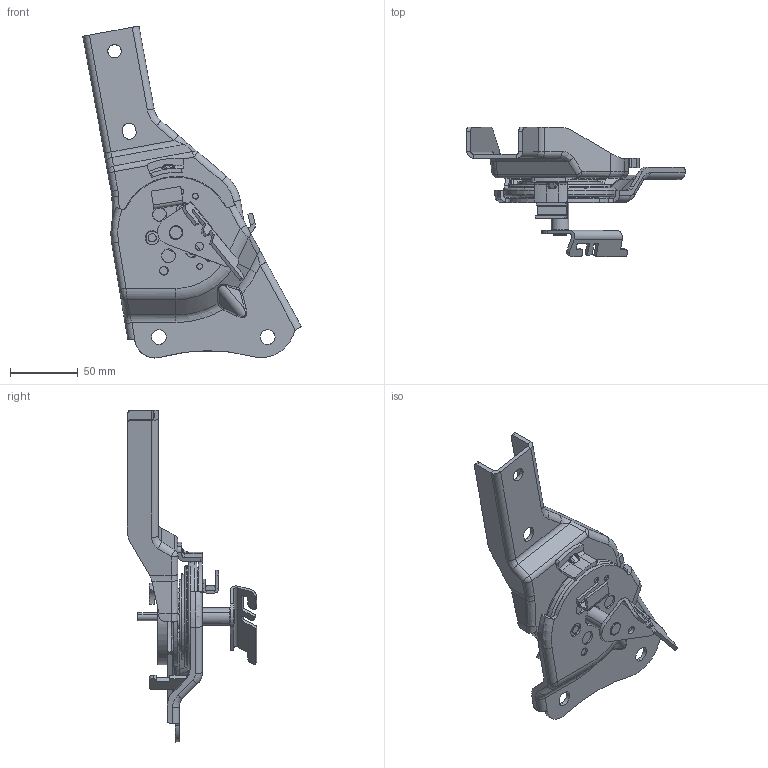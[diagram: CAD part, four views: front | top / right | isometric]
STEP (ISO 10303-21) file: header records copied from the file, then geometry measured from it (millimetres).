
FILE_DESCRIPTION(('CATIA V5 STEP Exchange'),'2;1');
FILE_NAME('F:\重卡项目整理未完待续\03-一汽项目\J6G-旋转副驾\J6G样件数据\单边调角器-20230706\副司机主边调角器总成-SHT0016160.stp','2023-07-06T05:52:57+00:00',('none'),('none'),'CATIA Version 5 Release 20 GA (IN-10)','CATIA V5 STEP AP214','none');
FILE_SCHEMA(('AUTOMOTIVE_DESIGN { 1 0 10303 214 1 1 1 1 }'));
Products named in the file (11): SHT0016160; Copy (1) of SQXM3000-6805545; SQXM3000-6805541; B406805215; SHT0010871; H4B-6905105; SQX3000-6805103; H4B-6805108; H4B-6805114; H4B-6805110; SHT0010721
Assembly tree (10 placements, depth 3):
  SHT0016160
    Copy (1) of SQXM3000-6805545
      SQXM3000-6805541
      B406805215
      SHT0010871
    H4B-6905105
    SQX3000-6805103
    H4B-6805108
    H4B-6805114
    H4B-6805110
    SHT0010721
Bounding box: 160.83 x 95.4 x 244.56 mm (x, y, z)
Volume: 188320.1 mm3; surface area: 131797.8 mm2
Topology: 13 solids, 13 shells, 1144 faces, 2999 edges, 1873 vertices
Faces by surface type: cylinder 464, plane 348, bspline 107, torus 99, sphere 76, cone 33, extrusion 17
Entity records: 45980 total; most frequent: CARTESIAN_POINT 20101, ORIENTED_EDGE 5858, DIRECTION 4107, EDGE_CURVE 2929, AXIS2_PLACEMENT_3D 1900, VERTEX_POINT 1873, EDGE_LOOP 1272, VECTOR 1240
